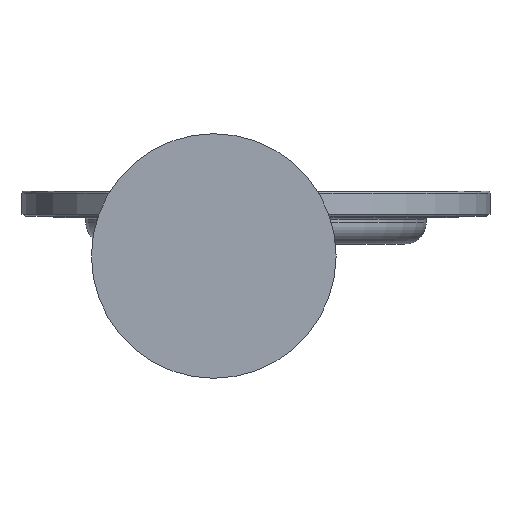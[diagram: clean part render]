
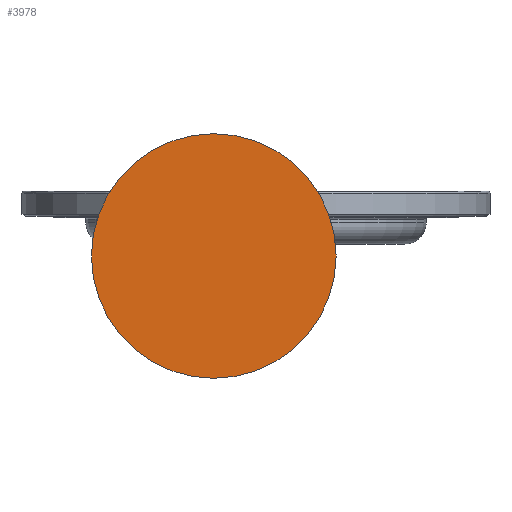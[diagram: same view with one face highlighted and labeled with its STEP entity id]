
A CAD part, left-side view. The second image highlights one B-rep face of the part: STEP entity #3978.
In plain terms, the highlighted planar face has unit normal (-1, 0, 0).
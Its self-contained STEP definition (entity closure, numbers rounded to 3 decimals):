
#568 = CARTESIAN_POINT ( 'NONE',  ( -175.25, -70.257, -19.097 ) ) ;
#587 = DIRECTION ( 'NONE',  ( 0., 0., 1. ) ) ;
#609 = CIRCLE ( 'NONE', #1816, 57.5 ) ;
#1247 = ORIENTED_EDGE ( 'NONE', *, *, #5215, .F. ) ;
#1471 = FACE_OUTER_BOUND ( 'NONE', #2956, .T. ) ;
#1584 = CIRCLE ( 'NONE', #3513, 57.5 ) ;
#1816 = AXIS2_PLACEMENT_3D ( 'NONE', #568, #2672, #4083 ) ;
#2134 = EDGE_CURVE ( 'NONE', #3114, #5563, #609, .T. ) ;
#2282 = CARTESIAN_POINT ( 'NONE',  ( -175.25, -127.757, -19.097 ) ) ;
#2672 = DIRECTION ( 'NONE',  ( 1., 0., 0. ) ) ;
#2748 = CARTESIAN_POINT ( 'NONE',  ( -175.25, -12.757, -19.097 ) ) ;
#2956 = EDGE_LOOP ( 'NONE', ( #4224, #1247 ) ) ;
#2958 = CARTESIAN_POINT ( 'NONE',  ( -175.25, -70.257, -19.097 ) ) ;
#3114 = VERTEX_POINT ( 'NONE', #2282 ) ;
#3220 = PLANE ( 'NONE',  #3686 ) ;
#3306 = DIRECTION ( 'NONE',  ( 0., -1., 0. ) ) ;
#3513 = AXIS2_PLACEMENT_3D ( 'NONE', #2958, #5070, #3306 ) ;
#3686 = AXIS2_PLACEMENT_3D ( 'NONE', #4984, #4543, #587 ) ;
#3978 = ADVANCED_FACE ( 'NONE', ( #1471 ), #3220, .F. ) ;
#4083 = DIRECTION ( 'NONE',  ( 0., -1., 0. ) ) ;
#4224 = ORIENTED_EDGE ( 'NONE', *, *, #2134, .F. ) ;
#4543 = DIRECTION ( 'NONE',  ( 1., 0., 0. ) ) ;
#4984 = CARTESIAN_POINT ( 'NONE',  ( -175.25, -70.257, -19.097 ) ) ;
#5070 = DIRECTION ( 'NONE',  ( 1., 0., 0. ) ) ;
#5215 = EDGE_CURVE ( 'NONE', #5563, #3114, #1584, .T. ) ;
#5563 = VERTEX_POINT ( 'NONE', #2748 ) ;
